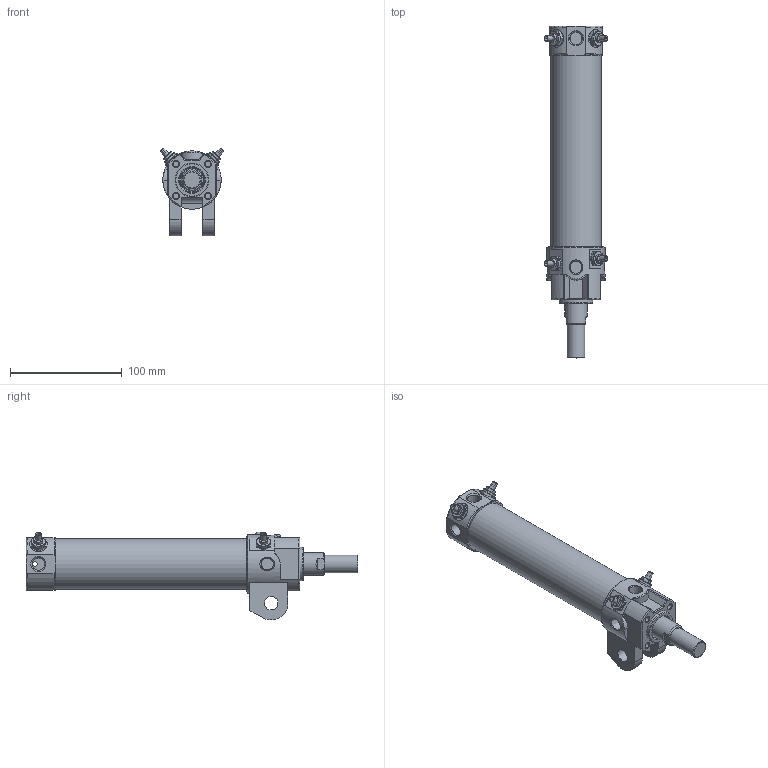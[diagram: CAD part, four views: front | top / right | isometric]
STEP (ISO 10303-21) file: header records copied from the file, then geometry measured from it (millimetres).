
FILE_DESCRIPTION((''),'2;1');
FILE_NAME('I:\3D電子目錄\氣缸\DCK\DCK\DCK-1B-40.stp','2008-02-25T16:00:49',('Administrator'),(''),'Autodesk Inventor 11','Autodesk Inventor 11','');
FILE_SCHEMA(('AUTOMOTIVE_DESIGN { 1 0 10303 214 1 1 1 1 }'));
Length unit declared in the file: millimetre
Products named in the file (1): DCK-1B-40
Bounding box: 57.13 x 296.5 x 78.56 mm (x, y, z)
Volume: 204322.3 mm3; surface area: 99222.9 mm2
Topology: 11 solids, 11 shells, 524 faces, 1220 edges, 764 vertices
Faces by surface type: bspline 161, plane 148, cylinder 127, cone 59, torus 27, sphere 2
Full cylindrical faces by diameter (mm): 2 x1, 3 x3, 3.8 x2, 4 x4, 4.6 x2, 5 x6, 5.1 x4, 5.2 x2, 7 x1, 7.25 x1, 8 x2, 8.3 x1, 10 x2, 12 x2, 12.8 x2, 16 x2, 20 x1, 21 x1, 22 x3, 23 x1, 24.7 x1, 26 x1, 28 x1, 29 x1, 30 x1, 33 x1, 40 x1, 42 x2, 45 x1, 52 x1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
Entity records: 26560 total; most frequent: CARTESIAN_POINT 16312, ORIENTED_EDGE 2104, DIRECTION 1851, EDGE_CURVE 1052, AXIS2_PLACEMENT_3D 764, EDGE_LOOP 730, VERTEX_POINT 724, FACE_OUTER_BOUND 522
